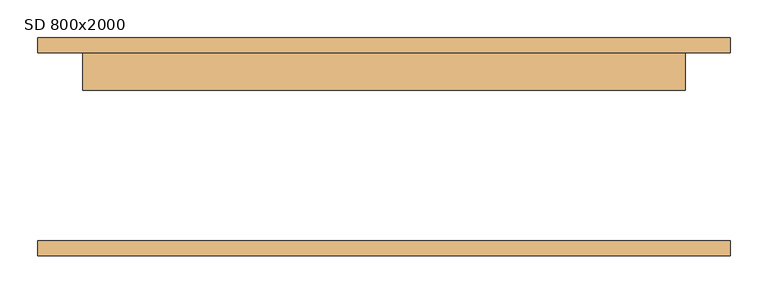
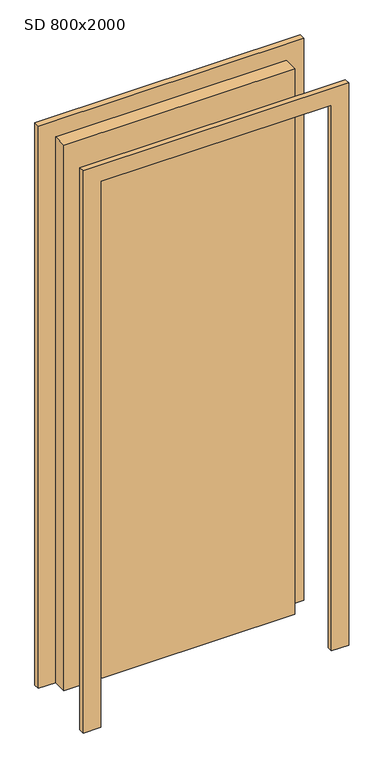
"""IFC4 building model written with IfcOpenShell, lengths in millimetres: door geometry, JednokridlePlne : SD 800x2000."""

from ifc_helpers import new_model, si_unit, frame, origin, origin_with_axes, place, context, project, spatial, polyline, outline, extrude, source, transform, mapped, element, save


def sd_800x2000_59be3646(model_context):
    return source(origin(), model_context, "Body", "SweptSolid", [
        extrude(outline(polyline([(2060.0, -460.0), (0.0, -460.0), (0.0, -400.0), (2000.0, -400.0), (2000.0, 400.0), (0.0, 400.0), (0.0, 460.0), (2060.0, 460.0), (2060.0, -460.0)])), frame((0.0, 125.0, 0.0), z_axis=(0.0, 1.0, 0.0), x_axis=(0.0, 0.0, 1.0)), (0.0, 0.0, 1.0), 20.0),
        extrude(outline(polyline([(2060.0, 460.0), (2060.0, -460.0), (0.0, -460.0), (0.0, -400.0), (2000.0, -400.0), (2000.0, 400.0), (0.0, 400.0), (0.0, 460.0), (2060.0, 460.0)])), frame((0.0, -145.0, 0.0), z_axis=(0.0, 1.0, 0.0), x_axis=(0.0, 0.0, 1.0)), (0.0, 0.0, 1.0), 20.0),
        extrude(outline(polyline([(400.0, 75.0), (-400.0, 75.0), (-400.0, 125.0), (400.0, 125.0), (400.0, 75.0)])), origin_with_axes(), (0.0, 0.0, 1.0), 2000.0),
    ])


if __name__ == "__main__":
    model = new_model("IFC4")
    model_context = context("Model", 3, world=origin())
    ifc_project = project(units=[si_unit("LENGTHUNIT", "METRE", prefix="MILLI")], contexts=[model_context])
    site = spatial("IfcSite", under=ifc_project)
    building = spatial("IfcBuilding", under=site)
    placement = place(None, origin())
    sd_800x2000_shape = sd_800x2000_59be3646(model_context)
    element("IfcDoor", 1, ObjectType="JednokridlePlne : SD 800x2000", at=placement, inside=building, context=model_context, shape_type="MappedRepresentation", body=[
        mapped(sd_800x2000_shape, transform((0.0, 0.0, 0.0), x_axis=(1.0, 0.0, 0.0), y_axis=(0.0, 1.0, 0.0), z_axis=(0.0, 0.0, 1.0))),
    ])
    save(model, "model.ifc")
